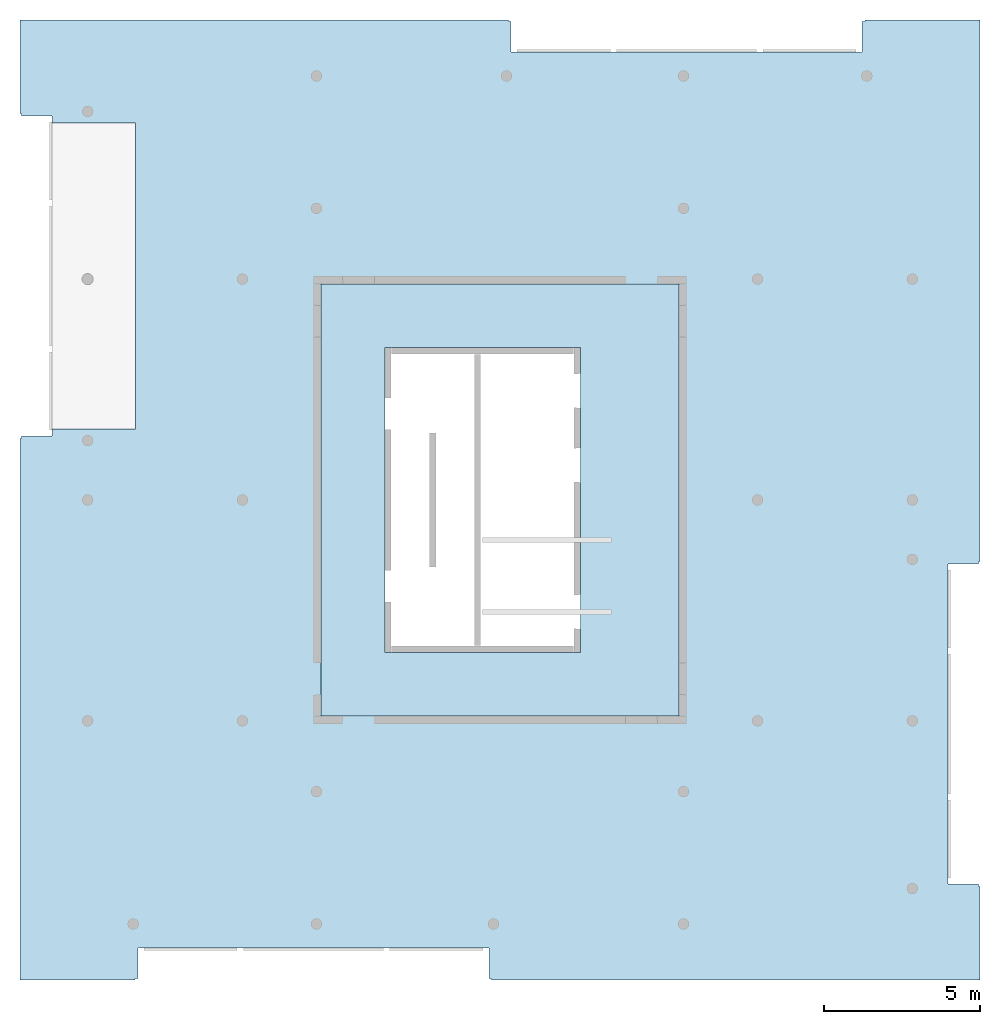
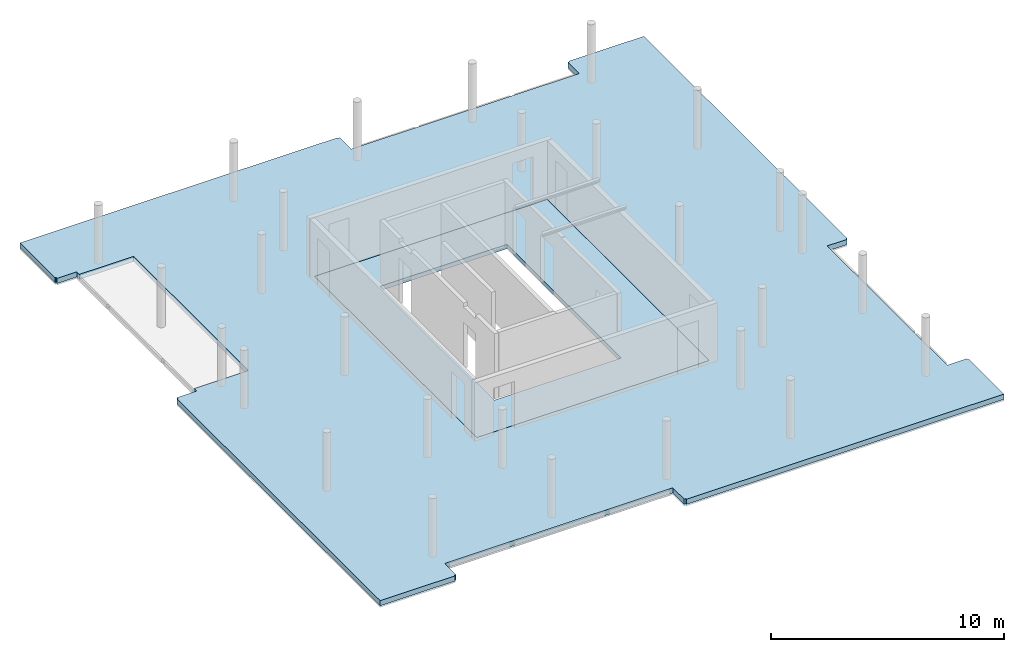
# One storey, part 3 of 3: 2 slabs.
"""IFC2X3 building model written with IfcOpenShell, lengths in millimetres."""

from ifc_helpers import new_model, entity, si_unit, converted_unit, derived_unit, direction, frame, origin, place, context, subcontext, project, spatial, faceted_brep, material, element, save


model = new_model("IFC2X3")

# Units and contexts
model_context = context("Model", 3, precision=0.01, world=origin(), true_north=direction((6.12303176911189e-17, 1.0)))
body_context = subcontext(model_context, "Body", "Model", "MODEL_VIEW")
ifc_project = project(units=[si_unit("LENGTHUNIT", "METRE", prefix="MILLI"), si_unit("AREAUNIT", "SQUARE_METRE"), si_unit("VOLUMEUNIT", "CUBIC_METRE"), converted_unit("PLANEANGLEUNIT", "DEGREE", entity("IfcRatioMeasure", 0.0174532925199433), si_unit("PLANEANGLEUNIT", "RADIAN"), dimensions=[0, 0, 0, 0, 0, 0, 0]), si_unit("MASSUNIT", "GRAM", prefix="KILO"), derived_unit("MASSDENSITYUNIT", [(si_unit("MASSUNIT", "GRAM", prefix="KILO"), 1), (si_unit("LENGTHUNIT", "METRE"), -3)]), si_unit("TIMEUNIT", "SECOND"), si_unit("FREQUENCYUNIT", "HERTZ"), si_unit("THERMODYNAMICTEMPERATUREUNIT", "DEGREE_CELSIUS"), derived_unit("THERMALTRANSMITTANCEUNIT", [(si_unit("MASSUNIT", "GRAM", prefix="KILO"), 1), (si_unit("THERMODYNAMICTEMPERATUREUNIT", "KELVIN"), -1), (si_unit("TIMEUNIT", "SECOND"), -3)]), derived_unit("VOLUMETRICFLOWRATEUNIT", [(si_unit("LENGTHUNIT", "METRE"), 3), (si_unit("TIMEUNIT", "SECOND"), -1)]), si_unit("ELECTRICCURRENTUNIT", "AMPERE"), si_unit("ELECTRICVOLTAGEUNIT", "VOLT"), si_unit("POWERUNIT", "WATT"), si_unit("FORCEUNIT", "NEWTON", prefix="KILO"), si_unit("ILLUMINANCEUNIT", "LUX"), si_unit("LUMINOUSFLUXUNIT", "LUMEN"), si_unit("LUMINOUSINTENSITYUNIT", "CANDELA"), derived_unit("USERDEFINED", [(si_unit("MASSUNIT", "GRAM", prefix="KILO"), -1), (si_unit("LENGTHUNIT", "METRE"), -2), (si_unit("TIMEUNIT", "SECOND"), 3), (si_unit("LUMINOUSFLUXUNIT", "LUMEN"), 1)]), derived_unit("LINEARVELOCITYUNIT", [(si_unit("LENGTHUNIT", "METRE"), 1), (si_unit("TIMEUNIT", "SECOND"), -1)]), si_unit("PRESSUREUNIT", "PASCAL"), derived_unit("USERDEFINED", [(si_unit("LENGTHUNIT", "METRE"), -2), (si_unit("MASSUNIT", "GRAM", prefix="KILO"), 1), (si_unit("TIMEUNIT", "SECOND"), -2)])], contexts=[model_context])

# Site, building, storey
site_placement = place(None, origin())
site = spatial("IfcSite", under=ifc_project, at=site_placement, Name="Default", CompositionType="ELEMENT")
building_placement = place(site_placement, origin())
building = spatial("IfcBuilding", under=site, at=building_placement, Name="niet gebruiken", CompositionType="ELEMENT")
storey_placement = place(building_placement, frame((0.0, 0.0, 171740.0)))
storey = spatial("IfcBuildingStorey", under=building, at=storey_placement, Name="55 vijfenvijftigste verdieping", CompositionType="ELEMENT", Elevation=171740.0)

# Slabs
slab_1_placement = place(storey_placement, origin())
element("IfcSlab", 1, at=slab_1_placement, inside=storey, Name="Floor:NLRS_23.21_FL_vloer=230_gen", ObjectType="Floor:NLRS_23.21_FL_vloer=230_gen", PredefinedType="FLOOR", context=body_context, shape_type="Brep", body=[
    faceted_brep([(144330.0, 22400.0, -320.0), (138050.0, 22400.0, -320.0), (138050.0, 12600.0, -320.0), (144330.0, 12600.0, -320.0), (138040.0, 22410.0, -320.0), (144340.0, 22410.0, -320.0), (144340.0, 12590.0, -320.0), (138040.0, 12590.0, -320.0), (138050.0, 22400.0, -90.0), (144330.0, 22400.0, -90.0), (144330.0, 12600.0, -90.0), (138050.0, 12600.0, -90.0), (147500.0, 10550.0, -90.0), (147500.0, 24450.0, -90.0), (136000.0, 24450.0, -90.0), (136000.0, 10550.0, -90.0), (147500.0, 10550.0, -260.0), (147500.0, 24450.0, -260.0), (136000.0, 10550.0, -260.0), (136000.0, 24450.0, -260.0), (144340.0, 12590.0, -260.0), (144340.0, 22410.0, -260.0), (138040.0, 22410.0, -260.0), (138040.0, 12590.0, -260.0)], [[[0, 1, 2, 3], [4, 5, 6, 7]], [[8, 9, 10, 11], [12, 13, 14, 15]], [[13, 12, 16, 17]], [[12, 15, 18, 16]], [[15, 14, 19, 18]], [[14, 13, 17, 19]], [[1, 0, 9, 8]], [[2, 1, 8, 11]], [[3, 2, 11, 10]], [[0, 3, 10, 9]], [[20, 21, 22, 23], [17, 16, 18, 19]], [[22, 21, 5, 4]], [[23, 22, 4, 7]], [[20, 23, 7, 6]], [[21, 20, 6, 5]]], outer=[[False, True], [False, True], [True], [True], [True], [True], [True], [True], [True], [True], [False, True], [True], [True], [True], [True]]),
])
ifc_material = material(Name="NLRS_f2_beton ihwg")
slab_2_placement = place(storey_placement, origin())
element("IfcSlab", 2, at=slab_2_placement, inside=storey, material=ifc_material, Name="Floor:NLRS_23.21_FL_vloer d=350_gen", ObjectType="Floor:NLRS_23.21_FL_vloer d=350_gen", PredefinedType="FLOOR", context=body_context, shape_type="Brep", body=[
    faceted_brep([(147500.0, 24450.0, -440.0), (136000.0, 24450.0, -440.0), (136000.0, 10550.0, -440.0), (136020.0, 10550.0, -440.0), (147480.0, 10550.0, -440.0), (147500.0, 10550.0, -440.0), (135760.0, 24690.0, -440.0), (147740.0, 24690.0, -440.0), (147740.0, 10310.0, -440.0), (135760.0, 10310.0, -440.0), (130030.0, 29620.0, -90.0), (130030.0, 19780.0, -90.0), (127345.0, 19780.0, -90.0), (127345.0, 19560.0, -90.0), (126370.0, 19560.0, -90.0), (126370.0, 19474.0, -90.0), (126320.0, 19474.0, -90.0), (126320.0, 2070.0, -90.0), (130024.0, 2070.0, -90.0), (130024.0, 2120.0, -90.0), (130110.0, 2120.0, -90.0), (130110.0, 3095.0, -90.0), (141390.0, 3095.0, -90.0), (141390.0, 2120.0, -90.0), (141476.0, 2120.0, -90.0), (141476.0, 2070.0, -90.0), (157180.0, 2070.0, -90.0), (157180.0, 5074.0, -90.0), (157130.0, 5074.0, -90.0), (157130.0, 5160.0, -90.0), (156155.0, 5160.0, -90.0), (156155.0, 15440.0, -90.0), (157130.0, 15440.0, -90.0), (157130.0, 15526.0, -90.0), (157180.0, 15526.0, -90.0), (157180.0, 32930.0, -90.0), (153476.0, 32930.0, -90.0), (153476.0, 32880.0, -90.0), (153390.0, 32880.0, -90.0), (153390.0, 31905.0, -90.0), (142110.0, 31905.0, -90.0), (142110.0, 32880.0, -90.0), (142024.0, 32880.0, -90.0), (142024.0, 32930.0, -90.0), (126320.0, 32930.0, -90.0), (126320.0, 29926.0, -90.0), (126370.0, 29926.0, -90.0), (126370.0, 29840.0, -90.0), (127345.0, 29840.0, -90.0), (127345.0, 29620.0, -90.0), (136000.0, 24450.0, -90.0), (147500.0, 24450.0, -90.0), (147500.0, 10550.0, -90.0), (136000.0, 10550.0, -90.0), (130030.0, 29620.0, -140.0), (130030.0, 29620.0, -360.0), (130030.0, 19780.0, -360.0), (130030.0, 19780.0, -140.0), (127345.0, 29620.0, -140.0), (127345.0, 29620.0, -360.0), (126320.0, 32930.0, -360.0), (126320.0, 29926.0, -360.0), (142024.0, 32930.0, -360.0), (142110.0, 31905.0, -360.0), (142110.0, 32880.0, -360.0), (153390.0, 31905.0, -360.0), (153390.0, 32880.0, -360.0), (157180.0, 32930.0, -360.0), (153476.0, 32930.0, -360.0), (157180.0, 15526.0, -360.0), (156155.0, 15440.0, -360.0), (157130.0, 15440.0, -360.0), (156155.0, 5160.0, -360.0), (157130.0, 5160.0, -360.0), (157180.0, 2070.0, -360.0), (157180.0, 5074.0, -360.0), (141476.0, 2070.0, -360.0), (141390.0, 3095.0, -360.0), (141390.0, 2120.0, -360.0), (130110.0, 3095.0, -360.0), (130110.0, 2120.0, -360.0), (126320.0, 2070.0, -360.0), (130024.0, 2070.0, -360.0), (126320.0, 19474.0, -360.0), (127345.0, 19780.0, -360.0), (127345.0, 19780.0, -140.0), (147500.0, 24450.0, -320.0), (136000.0, 24450.0, -320.0), (136000.0, 10550.0, -320.0), (147500.0, 10550.0, -320.0), (127345.0, 29840.0, -360.0), (126370.0, 29840.0, -360.0), (126370.0, 29926.0, -360.0), (142024.0, 32880.0, -360.0), (153476.0, 32880.0, -360.0), (157130.0, 15526.0, -360.0), (157130.0, 5074.0, -360.0), (141476.0, 2120.0, -360.0), (130024.0, 2120.0, -360.0), (126370.0, 19474.0, -360.0), (126370.0, 19560.0, -360.0), (127345.0, 19560.0, -360.0), (147740.0, 24690.0, -360.0), (135760.0, 24690.0, -360.0), (135760.0, 10310.0, -360.0), (147740.0, 10310.0, -360.0), (147510.0, 10540.0, -320.0), (147510.0, 24460.0, -320.0), (135990.0, 24460.0, -320.0), (135990.0, 10540.0, -320.0), (147500.0, 24450.0, -260.0), (136000.0, 24450.0, -260.0), (136000.0, 10550.0, -260.0), (147500.0, 10550.0, -260.0), (135990.0, 24460.0, -260.0), (147510.0, 24460.0, -260.0), (147510.0, 10540.0, -260.0), (135990.0, 10540.0, -260.0)], [[[0, 1, 2, 3, 4, 5], [6, 7, 8, 9]], [[10, 11, 12, 13, 14, 15, 16, 17, 18, 19, 20, 21, 22, 23, 24, 25, 26, 27, 28, 29, 30, 31, 32, 33, 34, 35, 36, 37, 38, 39, 40, 41, 42, 43, 44, 45, 46, 47, 48, 49], [50, 51, 52, 53]], [[11, 10, 54, 55, 56, 57]], [[10, 49, 58, 59, 55, 54]], [[45, 44, 60, 61]], [[44, 43, 62, 60]], [[41, 40, 63, 64]], [[40, 39, 65, 63]], [[39, 38, 66, 65]], [[36, 35, 67, 68]], [[35, 34, 69, 67]], [[32, 31, 70, 71]], [[31, 30, 72, 70]], [[30, 29, 73, 72]], [[27, 26, 74, 75]], [[26, 25, 76, 74]], [[23, 22, 77, 78]], [[22, 21, 79, 77]], [[21, 20, 80, 79]], [[18, 17, 81, 82]], [[17, 16, 83, 81]], [[12, 11, 57, 56, 84, 85]], [[1, 0, 86, 87]], [[2, 1, 87, 88]], [[5, 4, 3, 2, 88, 89]], [[0, 5, 89, 86]], [[56, 55, 59, 90, 91, 92, 61, 60, 62, 93, 64, 63, 65, 66, 94, 68, 67, 69, 95, 71, 70, 72, 73, 96, 75, 74, 76, 97, 78, 77, 79, 80, 98, 82, 81, 83, 99, 100, 101, 84], [102, 103, 104, 105]], [[103, 102, 7, 6]], [[104, 103, 6, 9]], [[105, 104, 9, 8]], [[102, 105, 8, 7]], [[87, 86, 89, 88], [106, 107, 108, 109]], [[110, 111, 112, 113], [114, 115, 116, 117]], [[107, 106, 116, 115]], [[106, 109, 117, 116]], [[109, 108, 114, 117]], [[108, 107, 115, 114]], [[47, 46, 92, 91]], [[46, 45, 61, 92]], [[43, 42, 93, 62]], [[42, 41, 64, 93]], [[38, 37, 94, 66]], [[37, 36, 68, 94]], [[34, 33, 95, 69]], [[33, 32, 71, 95]], [[29, 28, 96, 73]], [[28, 27, 75, 96]], [[25, 24, 97, 76]], [[24, 23, 78, 97]], [[20, 19, 98, 80]], [[19, 18, 82, 98]], [[16, 15, 99, 83]], [[15, 14, 100, 99]], [[14, 13, 101, 100]], [[13, 12, 85, 84, 101]], [[49, 48, 90, 59, 58]], [[48, 47, 91, 90]], [[52, 51, 110, 113]], [[53, 52, 113, 112]], [[50, 53, 112, 111]], [[51, 50, 111, 110]]], outer=[[False, True], [True, False], [True], [True], [True], [True], [True], [True], [True], [True], [True], [True], [True], [True], [True], [True], [True], [True], [True], [True], [True], [True], [True], [True], [True], [True], [True, False], [True], [True], [True], [True], [False, True], [False, True], [True], [True], [True], [True], [True], [True], [True], [True], [True], [True], [True], [True], [True], [True], [True], [True], [True], [True], [True], [True], [True], [True], [True], [True], [True], [True], [True], [True]]),
])

save(model, "model.ifc")
